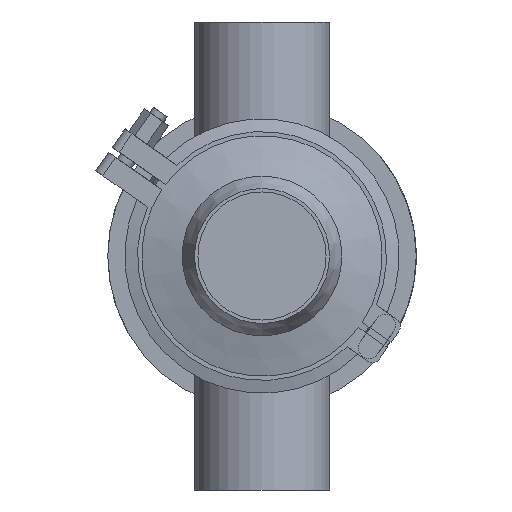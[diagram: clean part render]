
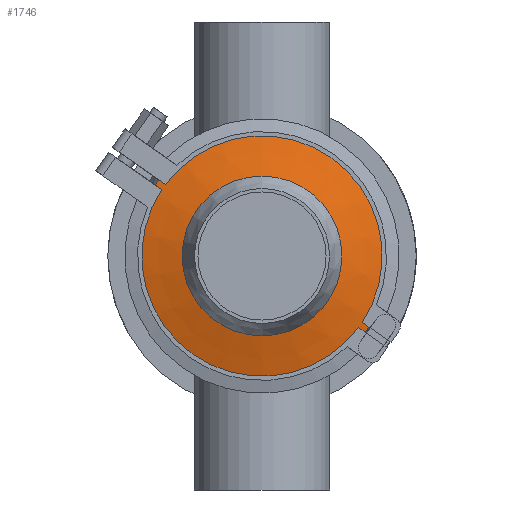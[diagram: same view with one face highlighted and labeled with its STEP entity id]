
A CAD part, front view. The second image highlights one B-rep face of the part: STEP entity #1746.
In plain terms, the highlighted conical face has half-angle 75 degrees and reference radius 60.5 mm.
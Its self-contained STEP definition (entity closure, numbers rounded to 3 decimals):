
#503 = VERTEX_POINT ( 'NONE', #5296 ) ;
#1746 = ADVANCED_FACE ( 'NONE', ( #9834, #8366 ), #15554, .T. ) ;
#1940 = VERTEX_POINT ( 'NONE', #6341 ) ;
#2558 = CIRCLE ( 'NONE', #5257, 37.546 ) ;
#2755 = CARTESIAN_POINT ( 'NONE',  ( 0., 5.5, 0. ) ) ;
#3055 = EDGE_CURVE ( 'NONE', #1940, #1940, #13340, .T. ) ;
#5257 = AXIS2_PLACEMENT_3D ( 'NONE', #11875, #14906, #19730 ) ;
#5296 = CARTESIAN_POINT ( 'NONE',  ( 0., -0.651, 37.546 ) ) ;
#5443 = DIRECTION ( 'NONE',  ( 0., 0., 1. ) ) ;
#6341 = CARTESIAN_POINT ( 'NONE',  ( 0., 5.5, 60.5 ) ) ;
#7676 = AXIS2_PLACEMENT_3D ( 'NONE', #2755, #20160, #12104 ) ;
#7734 = EDGE_LOOP ( 'NONE', ( #9441 ) ) ;
#7860 = EDGE_LOOP ( 'NONE', ( #12095 ) ) ;
#8366 = FACE_OUTER_BOUND ( 'NONE', #7860, .T. ) ;
#9441 = ORIENTED_EDGE ( 'NONE', *, *, #13200, .T. ) ;
#9834 = FACE_BOUND ( 'NONE', #7734, .T. ) ;
#10245 = CARTESIAN_POINT ( 'NONE',  ( 0., 5.5, 0. ) ) ;
#11875 = CARTESIAN_POINT ( 'NONE',  ( 0., -0.651, 0. ) ) ;
#12095 = ORIENTED_EDGE ( 'NONE', *, *, #3055, .F. ) ;
#12104 = DIRECTION ( 'NONE',  ( 0., 0., 1. ) ) ;
#13200 = EDGE_CURVE ( 'NONE', #503, #503, #2558, .T. ) ;
#13340 = CIRCLE ( 'NONE', #7676, 60.5 ) ;
#14906 = DIRECTION ( 'NONE',  ( 0., 1., 0. ) ) ;
#14967 = DIRECTION ( 'NONE',  ( 0., 1., 0. ) ) ;
#15554 = CONICAL_SURFACE ( 'NONE', #18229, 60.5, 1.309 ) ;
#18229 = AXIS2_PLACEMENT_3D ( 'NONE', #10245, #14967, #5443 ) ;
#19730 = DIRECTION ( 'NONE',  ( 0., 0., 1. ) ) ;
#20160 = DIRECTION ( 'NONE',  ( 0., 1., 0. ) ) ;
